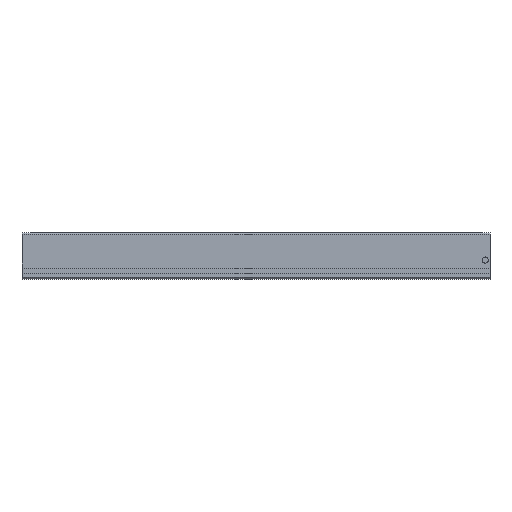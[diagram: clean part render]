
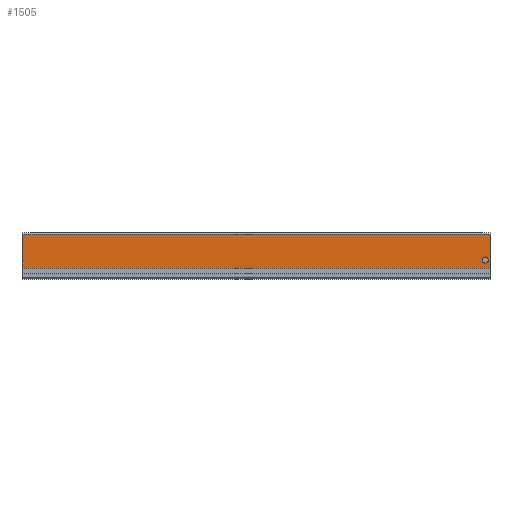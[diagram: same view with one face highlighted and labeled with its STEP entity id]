
A CAD part, top view. The second image highlights one B-rep face of the part: STEP entity #1505.
In plain terms, the highlighted planar face has unit normal (0, 0, 1).
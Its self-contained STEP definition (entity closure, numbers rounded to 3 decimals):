
#20 = EDGE_CURVE ( 'NONE', #1229, #1452, #933, .T. ) ;
#117 = LINE ( 'NONE', #568, #1678 ) ;
#190 = DIRECTION ( 'NONE',  ( 0., -1., 0. ) ) ;
#221 = CARTESIAN_POINT ( 'NONE',  ( 280., 6.6, 0. ) ) ;
#241 = LINE ( 'NONE', #375, #1455 ) ;
#314 = DIRECTION ( 'NONE',  ( -1., 0., 0. ) ) ;
#352 = ORIENTED_EDGE ( 'NONE', *, *, #20, .F. ) ;
#355 = VERTEX_POINT ( 'NONE', #385 ) ;
#375 = CARTESIAN_POINT ( 'NONE',  ( 0., 0., 0. ) ) ;
#385 = CARTESIAN_POINT ( 'NONE',  ( 0., 6.6, 0. ) ) ;
#435 = FACE_OUTER_BOUND ( 'NONE', #464, .T. ) ;
#464 = EDGE_LOOP ( 'NONE', ( #777, #1660, #804, #1883 ) ) ;
#485 = VECTOR ( 'NONE', #1713, 1000. ) ;
#504 = AXIS2_PLACEMENT_3D ( 'NONE', #1033, #1794, #1961 ) ;
#536 = PLANE ( 'NONE',  #504 ) ;
#568 = CARTESIAN_POINT ( 'NONE',  ( 280., 26.7, 0. ) ) ;
#653 = DIRECTION ( 'NONE',  ( -1., 0., 0. ) ) ;
#667 = LINE ( 'NONE', #1381, #1702 ) ;
#668 = AXIS2_PLACEMENT_3D ( 'NONE', #1875, #1249, #314 ) ;
#673 = CIRCLE ( 'NONE', #668, 1.85 ) ;
#692 = EDGE_CURVE ( 'NONE', #937, #355, #241, .T. ) ;
#736 = VERTEX_POINT ( 'NONE', #221 ) ;
#775 = EDGE_LOOP ( 'NONE', ( #352, #1662 ) ) ;
#777 = ORIENTED_EDGE ( 'NONE', *, *, #1168, .F. ) ;
#798 = CARTESIAN_POINT ( 'NONE',  ( 280., 26.7, 0. ) ) ;
#804 = ORIENTED_EDGE ( 'NONE', *, *, #692, .T. ) ;
#822 = DIRECTION ( 'NONE',  ( 0., 0., 1. ) ) ;
#933 = CIRCLE ( 'NONE', #1536, 1.85 ) ;
#937 = VERTEX_POINT ( 'NONE', #1999 ) ;
#980 = CARTESIAN_POINT ( 'NONE',  ( 277.15, 11.392, 0. ) ) ;
#1033 = CARTESIAN_POINT ( 'NONE',  ( 280., 0., 0. ) ) ;
#1153 = CARTESIAN_POINT ( 'NONE',  ( 279., 11.392, 0. ) ) ;
#1168 = EDGE_CURVE ( 'NONE', #1285, #736, #667, .T. ) ;
#1229 = VERTEX_POINT ( 'NONE', #1851 ) ;
#1249 = DIRECTION ( 'NONE',  ( 0., 0., 1. ) ) ;
#1285 = VERTEX_POINT ( 'NONE', #798 ) ;
#1351 = CARTESIAN_POINT ( 'NONE',  ( 0., 6.6, 0. ) ) ;
#1381 = CARTESIAN_POINT ( 'NONE',  ( 280., 0., 0. ) ) ;
#1452 = VERTEX_POINT ( 'NONE', #1153 ) ;
#1455 = VECTOR ( 'NONE', #190, 1000. ) ;
#1505 = ADVANCED_FACE ( 'NONE', ( #2018, #435 ), #536, .F. ) ;
#1536 = AXIS2_PLACEMENT_3D ( 'NONE', #980, #822, #653 ) ;
#1546 = EDGE_CURVE ( 'NONE', #355, #736, #1596, .T. ) ;
#1596 = LINE ( 'NONE', #1351, #485 ) ;
#1624 = EDGE_CURVE ( 'NONE', #1285, #937, #117, .T. ) ;
#1660 = ORIENTED_EDGE ( 'NONE', *, *, #1624, .T. ) ;
#1662 = ORIENTED_EDGE ( 'NONE', *, *, #2011, .F. ) ;
#1678 = VECTOR ( 'NONE', #1825, 1000. ) ;
#1702 = VECTOR ( 'NONE', #1835, 1000. ) ;
#1713 = DIRECTION ( 'NONE',  ( 1., 0., 0. ) ) ;
#1794 = DIRECTION ( 'NONE',  ( 0., 0., -1. ) ) ;
#1825 = DIRECTION ( 'NONE',  ( -1., 0., 0. ) ) ;
#1835 = DIRECTION ( 'NONE',  ( 0., -1., 0. ) ) ;
#1851 = CARTESIAN_POINT ( 'NONE',  ( 275.3, 11.392, 0. ) ) ;
#1875 = CARTESIAN_POINT ( 'NONE',  ( 277.15, 11.392, 0. ) ) ;
#1883 = ORIENTED_EDGE ( 'NONE', *, *, #1546, .T. ) ;
#1961 = DIRECTION ( 'NONE',  ( -1., 0., 0. ) ) ;
#1999 = CARTESIAN_POINT ( 'NONE',  ( 0., 26.7, 0. ) ) ;
#2011 = EDGE_CURVE ( 'NONE', #1452, #1229, #673, .T. ) ;
#2018 = FACE_BOUND ( 'NONE', #775, .T. ) ;
